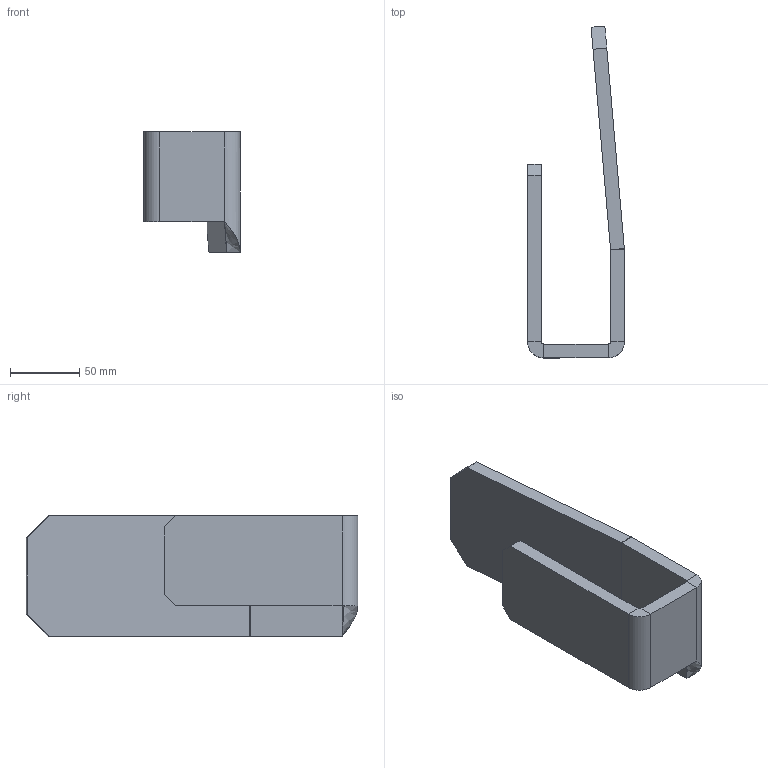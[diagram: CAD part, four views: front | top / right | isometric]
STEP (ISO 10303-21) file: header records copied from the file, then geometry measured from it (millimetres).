
FILE_DESCRIPTION (( 'STEP AP203' ), '1' );
FILE_NAME ('4145_4146_DX_SX_STAFFA_3.STEP', '2019-02-20T18:41:24', ( '' ), ( '' ), 'SwSTEP 2.0', 'SolidWorks 2019', '' );
FILE_SCHEMA (( 'CONFIG_CONTROL_DESIGN' ));
Length unit declared in the file: millimetre
Products named in the file (1): 4145_4146_DX_SX_STAFFA_3
Bounding box: 70 x 239.99 x 87 mm (x, y, z)
Volume: 324218.3 mm3; surface area: 74718.3 mm2
Topology: 1 solids, 1 shells, 34 faces, 72 edges, 40 vertices
Faces by surface type: plane 27, cylinder 6, bspline 1
Entity records: 1009 total; most frequent: CARTESIAN_POINT 212, DIRECTION 148, ORIENTED_EDGE 144, EDGE_CURVE 72, VECTOR 60, LINE 60, AXIS2_PLACEMENT_3D 44, VERTEX_POINT 40
